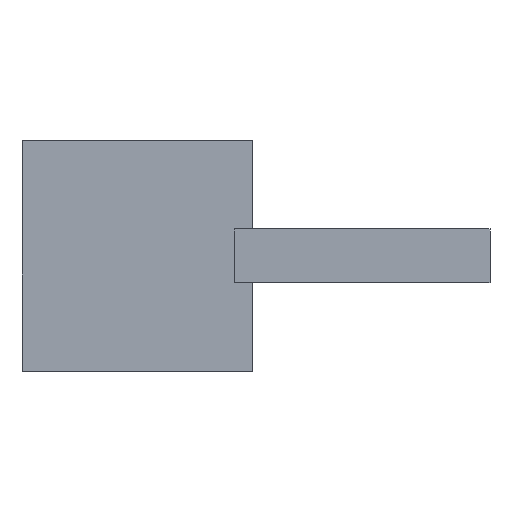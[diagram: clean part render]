
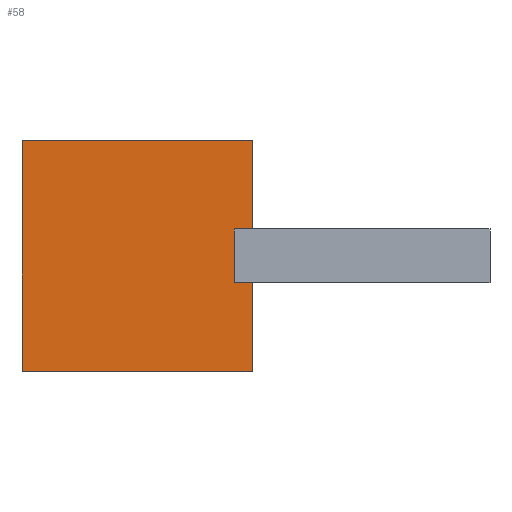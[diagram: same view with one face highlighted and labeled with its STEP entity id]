
A CAD part, top view. The second image highlights one B-rep face of the part: STEP entity #58.
In plain terms, the highlighted planar face has unit normal (0, 0, 1).
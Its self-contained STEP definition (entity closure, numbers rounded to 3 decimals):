
#58=ADVANCED_FACE('',(#166),#168,.T.);
#166=FACE_BOUND('',#167,.T.);
#167=EDGE_LOOP('',(#250,#251,#252,#253,#254,#255,#256,#257));
#168=PLANE('',#169);
#169=AXIS2_PLACEMENT_3D('',#170,#171,#172);
#170=CARTESIAN_POINT('',(0.,0.,1.));
#171=DIRECTION('',(0.,0.,1.));
#172=DIRECTION('',(-1.,0.,0.));
#250=ORIENTED_EDGE('',*,*,#306,.F.);
#251=ORIENTED_EDGE('',*,*,#307,.F.);
#252=ORIENTED_EDGE('',*,*,#308,.F.);
#253=ORIENTED_EDGE('',*,*,#309,.T.);
#254=ORIENTED_EDGE('',*,*,#310,.T.);
#255=ORIENTED_EDGE('',*,*,#311,.T.);
#256=ORIENTED_EDGE('',*,*,#312,.T.);
#257=ORIENTED_EDGE('',*,*,#313,.T.);
#306=EDGE_CURVE('',#334,#335,#336,.T.);
#307=EDGE_CURVE('',#337,#334,#338,.T.);
#308=EDGE_CURVE('',#339,#337,#340,.T.);
#309=EDGE_CURVE('',#339,#341,#342,.T.);
#310=EDGE_CURVE('',#341,#343,#344,.T.);
#311=EDGE_CURVE('',#343,#345,#346,.T.);
#312=EDGE_CURVE('',#345,#347,#348,.T.);
#313=EDGE_CURVE('',#347,#335,#349,.T.);
#334=VERTEX_POINT('',#380);
#335=VERTEX_POINT('',#381);
#336=LINE('',#382,#383);
#337=VERTEX_POINT('',#385);
#338=LINE('',#386,#387);
#339=VERTEX_POINT('',#389);
#340=LINE('',#390,#391);
#341=VERTEX_POINT('',#393);
#342=LINE('',#394,#395);
#343=VERTEX_POINT('',#397);
#344=LINE('',#398,#399);
#345=VERTEX_POINT('',#401);
#346=LINE('',#402,#403);
#347=VERTEX_POINT('',#405);
#348=LINE('',#406,#407);
#349=LINE('',#409,#410);
#380=CARTESIAN_POINT('',(2.694,-0.75,1.));
#381=CARTESIAN_POINT('',(3.2,-0.75,1.));
#382=CARTESIAN_POINT('',(2.694,-0.75,1.));
#383=VECTOR('',#384,1.);
#384=DIRECTION('',(1.,0.,0.));
#385=CARTESIAN_POINT('',(2.694,0.75,1.));
#386=CARTESIAN_POINT('',(2.694,0.75,1.));
#387=VECTOR('',#388,1.);
#388=DIRECTION('',(0.,-1.,0.));
#389=CARTESIAN_POINT('',(3.2,0.75,1.));
#390=CARTESIAN_POINT('',(3.2,0.75,1.));
#391=VECTOR('',#392,1.);
#392=DIRECTION('',(-1.,0.,0.));
#393=CARTESIAN_POINT('',(3.2,3.2,1.));
#394=CARTESIAN_POINT('',(3.2,0.75,1.));
#395=VECTOR('',#396,1.);
#396=DIRECTION('',(0.,1.,0.));
#397=CARTESIAN_POINT('',(-3.2,3.2,1.));
#398=CARTESIAN_POINT('',(3.2,3.2,1.));
#399=VECTOR('',#400,1.);
#400=DIRECTION('',(-1.,0.,0.));
#401=CARTESIAN_POINT('',(-3.2,-3.2,1.));
#402=CARTESIAN_POINT('',(-3.2,3.2,1.));
#403=VECTOR('',#404,1.);
#404=DIRECTION('',(0.,-1.,0.));
#405=CARTESIAN_POINT('',(3.2,-3.2,1.));
#406=CARTESIAN_POINT('',(-3.2,-3.2,1.));
#407=VECTOR('',#408,1.);
#408=DIRECTION('',(1.,0.,0.));
#409=CARTESIAN_POINT('',(3.2,-3.2,1.));
#410=VECTOR('',#411,1.);
#411=DIRECTION('',(0.,1.,0.));
